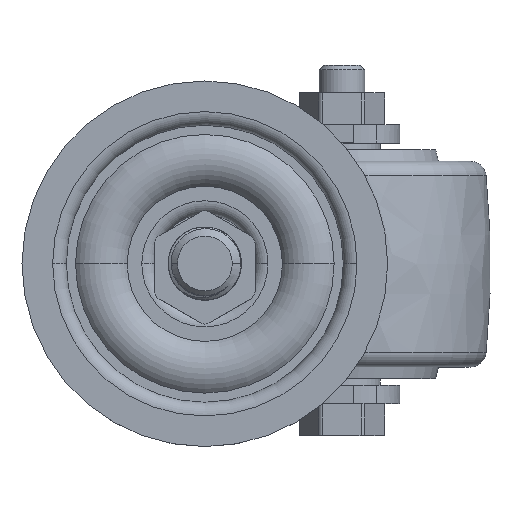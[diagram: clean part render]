
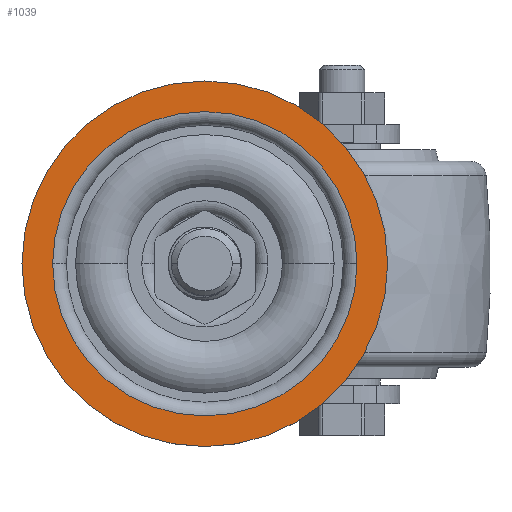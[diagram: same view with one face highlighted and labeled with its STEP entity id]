
A CAD part, top view. The second image highlights one B-rep face of the part: STEP entity #1039.
In plain terms, the highlighted planar face has unit normal (0, 0, 1).
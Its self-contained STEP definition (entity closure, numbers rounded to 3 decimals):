
#1039=ADVANCED_FACE('',(#1630,#1631),#1413,.F.);
#1413=PLANE('',#7527);
#1630=FACE_BOUND('',#1752,.T.);
#1631=FACE_BOUND('',#1753,.T.);
#1752=EDGE_LOOP('',(#3449,#3450));
#1753=EDGE_LOOP('',(#3451,#3452));
#3449=ORIENTED_EDGE('',*,*,#6206,.T.);
#3450=ORIENTED_EDGE('',*,*,#6204,.T.);
#3451=ORIENTED_EDGE('',*,*,#6207,.F.);
#3452=ORIENTED_EDGE('',*,*,#6208,.F.);
#5431=VERTEX_POINT('',#11559);
#5432=VERTEX_POINT('',#11561);
#5433=VERTEX_POINT('',#11567);
#5434=VERTEX_POINT('',#11568);
#6204=EDGE_CURVE('',#5432,#5431,#7088,.T.);
#6206=EDGE_CURVE('',#5431,#5432,#7089,.T.);
#6207=EDGE_CURVE('',#5433,#5434,#7090,.T.);
#6208=EDGE_CURVE('',#5434,#5433,#7091,.T.);
#7088=CIRCLE('',#7521,40.);
#7089=CIRCLE('',#7523,40.);
#7090=CIRCLE('',#7525,33.296);
#7091=CIRCLE('',#7526,33.296);
#7521=AXIS2_PLACEMENT_3D('',#11560,#8723,#8724);
#7523=AXIS2_PLACEMENT_3D('',#11564,#8728,#8729);
#7525=AXIS2_PLACEMENT_3D('',#11566,#8732,#8733);
#7526=AXIS2_PLACEMENT_3D('',#11569,#8734,#8735);
#7527=AXIS2_PLACEMENT_3D('',#11570,#8736,#8737);
#8723=DIRECTION('',(0.,0.,1.));
#8724=DIRECTION('',(-1.,0.,0.));
#8728=DIRECTION('',(0.,0.,1.));
#8729=DIRECTION('',(1.,0.,0.));
#8732=DIRECTION('',(0.,0.,1.));
#8733=DIRECTION('',(-1.,0.,0.));
#8734=DIRECTION('',(0.,0.,1.));
#8735=DIRECTION('',(1.,0.,0.));
#8736=DIRECTION('',(0.,0.,-1.));
#8737=DIRECTION('',(-1.,0.,0.));
#11559=CARTESIAN_POINT('',(40.,0.,-32.));
#11560=CARTESIAN_POINT('',(0.,0.,-32.));
#11561=CARTESIAN_POINT('',(-40.,0.,-32.));
#11564=CARTESIAN_POINT('',(0.,0.,-32.));
#11566=CARTESIAN_POINT('',(0.,0.,-32.));
#11567=CARTESIAN_POINT('',(-33.296,0.,-32.));
#11568=CARTESIAN_POINT('',(33.296,0.,-32.));
#11569=CARTESIAN_POINT('',(0.,0.,-32.));
#11570=CARTESIAN_POINT('',(0.,0.,-32.));
